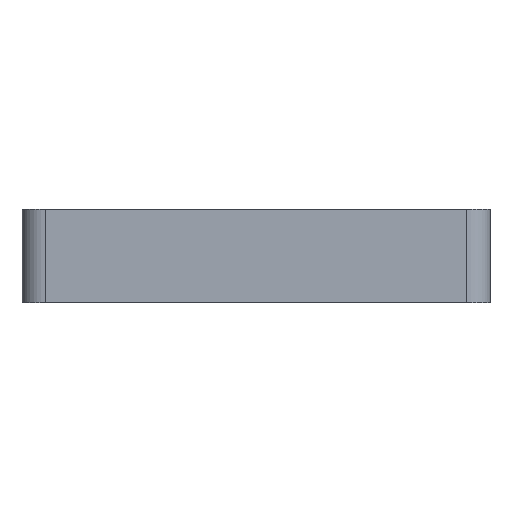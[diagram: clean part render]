
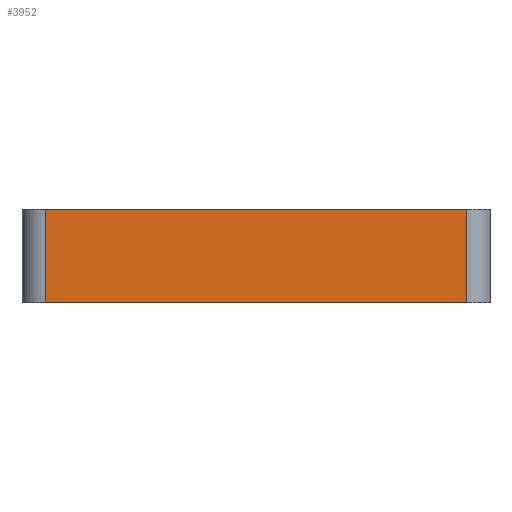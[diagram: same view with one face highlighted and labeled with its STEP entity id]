
A CAD part, left-side view. The second image highlights one B-rep face of the part: STEP entity #3952.
In plain terms, the highlighted planar face has unit normal (-1, 0, 0).
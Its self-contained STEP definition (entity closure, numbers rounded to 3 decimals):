
#21 = FACE_OUTER_BOUND ( 'NONE', #4003, .T. ) ;
#25 = VERTEX_POINT ( 'NONE', #4794 ) ;
#332 = DIRECTION ( 'NONE',  ( 0., 0., -1. ) ) ;
#356 = VECTOR ( 'NONE', #3211, 1000. ) ;
#751 = EDGE_CURVE ( 'NONE', #4768, #25, #6173, .T. ) ;
#855 = ORIENTED_EDGE ( 'NONE', *, *, #751, .T. ) ;
#986 = VECTOR ( 'NONE', #332, 1000. ) ;
#1129 = DIRECTION ( 'NONE',  ( 0., 0., 1. ) ) ;
#1614 = VECTOR ( 'NONE', #2218, 1000. ) ;
#1727 = CARTESIAN_POINT ( 'NONE',  ( -34.409, -18., -8. ) ) ;
#1735 = LINE ( 'NONE', #2181, #1614 ) ;
#2018 = CARTESIAN_POINT ( 'NONE',  ( -34.409, 18., -8. ) ) ;
#2181 = CARTESIAN_POINT ( 'NONE',  ( -34.409, 20., 0. ) ) ;
#2218 = DIRECTION ( 'NONE',  ( 0., -1., 0. ) ) ;
#2561 = CARTESIAN_POINT ( 'NONE',  ( -34.409, 20., -8. ) ) ;
#2595 = ORIENTED_EDGE ( 'NONE', *, *, #5620, .T. ) ;
#2778 = LINE ( 'NONE', #4272, #986 ) ;
#2849 = EDGE_CURVE ( 'NONE', #4892, #4801, #2778, .T. ) ;
#2984 = DIRECTION ( 'NONE',  ( 0., -1., 0. ) ) ;
#3036 = DIRECTION ( 'NONE',  ( -1., 0., 0. ) ) ;
#3211 = DIRECTION ( 'NONE',  ( 0., 0., 1. ) ) ;
#3468 = AXIS2_PLACEMENT_3D ( 'NONE', #4964, #3036, #1129 ) ;
#3854 = CARTESIAN_POINT ( 'NONE',  ( -34.409, 18., 0. ) ) ;
#3916 = LINE ( 'NONE', #2561, #5245 ) ;
#3952 = ADVANCED_FACE ( 'NONE', ( #21 ), #5454, .T. ) ;
#4003 = EDGE_LOOP ( 'NONE', ( #2595, #855, #6201, #4122 ) ) ;
#4122 = ORIENTED_EDGE ( 'NONE', *, *, #2849, .T. ) ;
#4272 = CARTESIAN_POINT ( 'NONE',  ( -34.409, 18., -8. ) ) ;
#4407 = EDGE_CURVE ( 'NONE', #4892, #25, #1735, .T. ) ;
#4768 = VERTEX_POINT ( 'NONE', #1727 ) ;
#4794 = CARTESIAN_POINT ( 'NONE',  ( -34.409, -18., 0. ) ) ;
#4801 = VERTEX_POINT ( 'NONE', #2018 ) ;
#4892 = VERTEX_POINT ( 'NONE', #3854 ) ;
#4964 = CARTESIAN_POINT ( 'NONE',  ( -34.409, 20., -8. ) ) ;
#5245 = VECTOR ( 'NONE', #2984, 1000. ) ;
#5454 = PLANE ( 'NONE',  #3468 ) ;
#5620 = EDGE_CURVE ( 'NONE', #4801, #4768, #3916, .T. ) ;
#6139 = CARTESIAN_POINT ( 'NONE',  ( -34.409, -18., -8. ) ) ;
#6173 = LINE ( 'NONE', #6139, #356 ) ;
#6201 = ORIENTED_EDGE ( 'NONE', *, *, #4407, .F. ) ;
